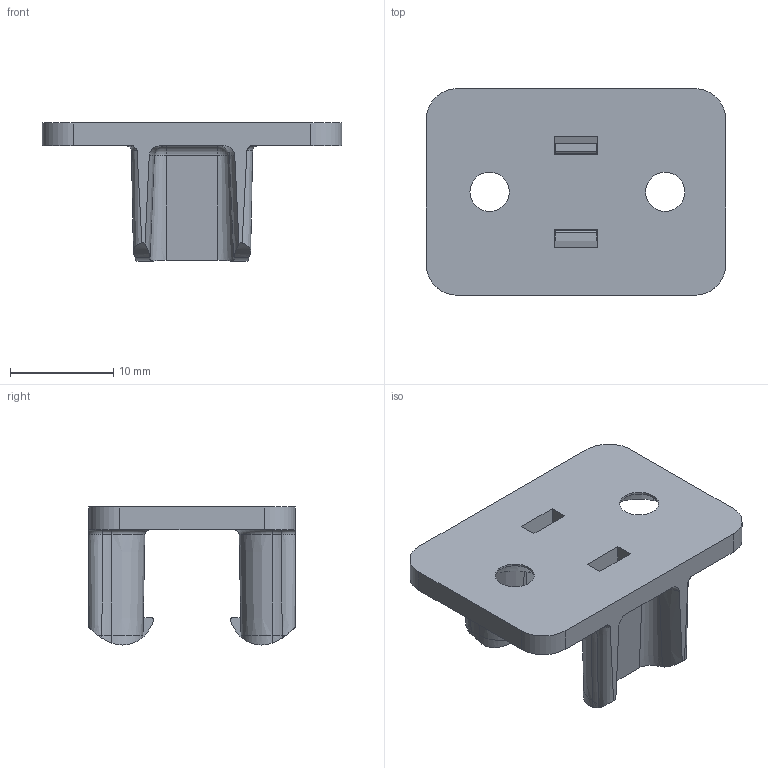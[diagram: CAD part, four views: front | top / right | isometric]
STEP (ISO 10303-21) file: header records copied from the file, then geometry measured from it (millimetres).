
FILE_DESCRIPTION (( 'STEP AP203' ), '1' );
FILE_NAME ('140308040017-彴倛芵噩-縐諶.STEP', '2022-10-14T01:13:51', ( '' ), ( '' ), 'SwSTEP 2.0', 'SolidWorks 2017', '' );
FILE_SCHEMA (( 'CONFIG_CONTROL_DESIGN' ));
Length unit declared in the file: millimetre
Products named in the file (1): 140308040017-彴倛芵噩-縐諶
Bounding box: 29 x 20.01 x 13.36 mm (x, y, z)
Volume: 1717.4 mm3; surface area: 2114.3 mm2
Topology: 1 solids, 1 shells, 132 faces, 358 edges, 226 vertices
Faces by surface type: cylinder 46, plane 38, cone 26, torus 22
Entity records: 4465 total; most frequent: CARTESIAN_POINT 1071, ORIENTED_EDGE 716, DIRECTION 686, EDGE_CURVE 358, AXIS2_PLACEMENT_3D 257, VERTEX_POINT 226, VECTOR 172, LINE 172
